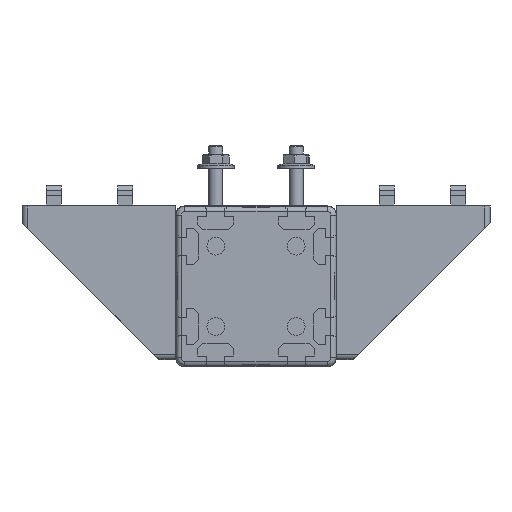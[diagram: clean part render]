
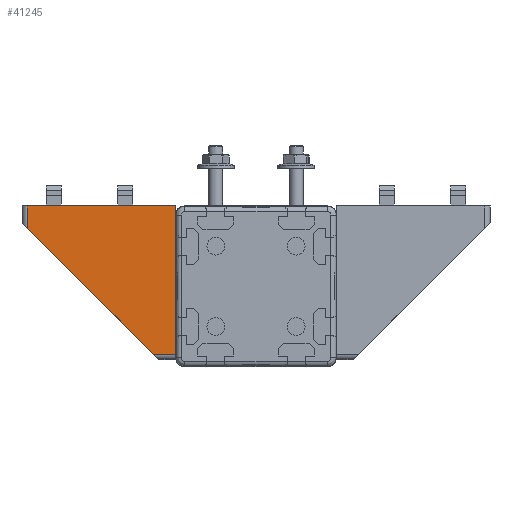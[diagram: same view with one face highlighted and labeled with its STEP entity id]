
A CAD part, left-side view. The second image highlights one B-rep face of the part: STEP entity #41245.
In plain terms, the highlighted planar face has unit normal (-1, 0, 0).
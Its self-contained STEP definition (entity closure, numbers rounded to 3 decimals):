
#200 = VECTOR ( 'NONE', #28002, 1000. ) ;
#1562 = LINE ( 'NONE', #27187, #200 ) ;
#2245 = CARTESIAN_POINT ( 'NONE',  ( -1027.75, 128., 32.5 ) ) ;
#4085 = VERTEX_POINT ( 'NONE', #42679 ) ;
#6820 = CARTESIAN_POINT ( 'NONE',  ( -1027.75, 45., 45. ) ) ;
#6854 = VERTEX_POINT ( 'NONE', #2245 ) ;
#7010 = CARTESIAN_POINT ( 'NONE',  ( -1027.75, 45., -41. ) ) ;
#8850 = CARTESIAN_POINT ( 'NONE',  ( -1027.75, 128., 45. ) ) ;
#10946 = EDGE_CURVE ( 'NONE', #43565, #4085, #47865, .T. ) ;
#13347 = VECTOR ( 'NONE', #31409, 1000. ) ;
#13784 = EDGE_CURVE ( 'NONE', #26102, #4085, #37144, .T. ) ;
#14421 = CARTESIAN_POINT ( 'NONE',  ( -1027.75, 128., 45. ) ) ;
#14434 = EDGE_CURVE ( 'NONE', #6854, #43565, #1562, .T. ) ;
#15093 = LINE ( 'NONE', #31969, #13347 ) ;
#15299 = DIRECTION ( 'NONE',  ( 0., 0., -1. ) ) ;
#15423 = AXIS2_PLACEMENT_3D ( 'NONE', #6820, #28209, #15299 ) ;
#18459 = ORIENTED_EDGE ( 'NONE', *, *, #13784, .F. ) ;
#20144 = CARTESIAN_POINT ( 'NONE',  ( -1027.75, 45., 45. ) ) ;
#24429 = VECTOR ( 'NONE', #37415, 1000. ) ;
#24721 = EDGE_LOOP ( 'NONE', ( #41776, #52480, #43478, #39253, #18459 ) ) ;
#26102 = VERTEX_POINT ( 'NONE', #20144 ) ;
#26382 = VECTOR ( 'NONE', #43407, 1000. ) ;
#27187 = CARTESIAN_POINT ( 'NONE',  ( -1027.75, 128., 32.5 ) ) ;
#27569 = CARTESIAN_POINT ( 'NONE',  ( -1027.75, 57.5, -38. ) ) ;
#28002 = DIRECTION ( 'NONE',  ( 0., -0.707, -0.707 ) ) ;
#28209 = DIRECTION ( 'NONE',  ( -1., 0., 0. ) ) ;
#30378 = CARTESIAN_POINT ( 'NONE',  ( -1027.75, 45., -38. ) ) ;
#31024 = LINE ( 'NONE', #14421, #26382 ) ;
#31409 = DIRECTION ( 'NONE',  ( 0., -1., 0. ) ) ;
#31969 = CARTESIAN_POINT ( 'NONE',  ( -1027.75, 45., 45. ) ) ;
#35724 = DIRECTION ( 'NONE',  ( 0., -1., 0. ) ) ;
#36967 = EDGE_CURVE ( 'NONE', #45485, #6854, #31024, .T. ) ;
#37144 = LINE ( 'NONE', #7010, #24429 ) ;
#37415 = DIRECTION ( 'NONE',  ( 0., 0., -1. ) ) ;
#39253 = ORIENTED_EDGE ( 'NONE', *, *, #10946, .T. ) ;
#39408 = VECTOR ( 'NONE', #35724, 1000. ) ;
#41245 = ADVANCED_FACE ( 'NONE', ( #48825 ), #53824, .T. ) ;
#41776 = ORIENTED_EDGE ( 'NONE', *, *, #50764, .F. ) ;
#42679 = CARTESIAN_POINT ( 'NONE',  ( -1027.75, 45., -38. ) ) ;
#43407 = DIRECTION ( 'NONE',  ( 0., 0., -1. ) ) ;
#43478 = ORIENTED_EDGE ( 'NONE', *, *, #14434, .T. ) ;
#43565 = VERTEX_POINT ( 'NONE', #27569 ) ;
#45485 = VERTEX_POINT ( 'NONE', #8850 ) ;
#47865 = LINE ( 'NONE', #30378, #39408 ) ;
#48825 = FACE_OUTER_BOUND ( 'NONE', #24721, .T. ) ;
#50764 = EDGE_CURVE ( 'NONE', #45485, #26102, #15093, .T. ) ;
#52480 = ORIENTED_EDGE ( 'NONE', *, *, #36967, .T. ) ;
#53824 = PLANE ( 'NONE',  #15423 ) ;
